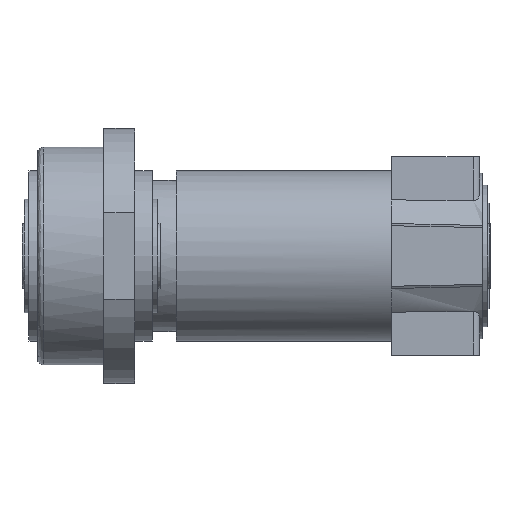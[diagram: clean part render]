
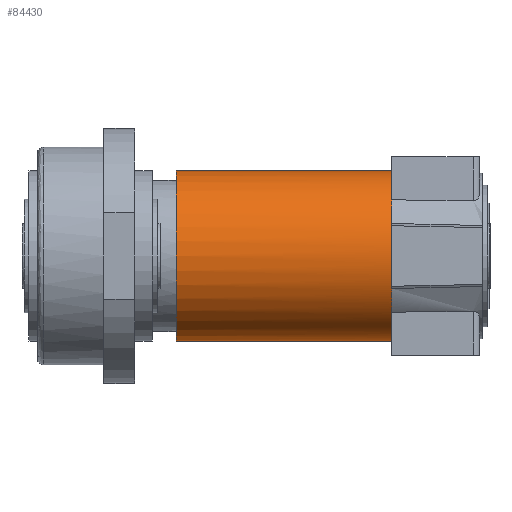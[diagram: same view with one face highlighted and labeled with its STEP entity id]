
A CAD part, front view. The second image highlights one B-rep face of the part: STEP entity #84430.
In plain terms, the highlighted cylindrical face has radius 45 mm (diameter 90 mm), a partial arc.
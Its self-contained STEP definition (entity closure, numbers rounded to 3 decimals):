
#20510=CARTESIAN_POINT('',(-64.,458.874,
-134.584));
#20520=DIRECTION('',(0.,1.,
-0.026));
#20530=DIRECTION('',(1.,0.,0.));
#20540=AXIS2_PLACEMENT_3D('',#20510,#20520,#20530);
#20550=CYLINDRICAL_SURFACE('',#20540,45.);
#20560=CARTESIAN_POINT('',(-109.,458.874,
-134.584));
#20570=DIRECTION('',(0.,1.,
-0.026));
#20580=VECTOR('',#20570,1.);
#20590=LINE('',#20560,#20580);
#20600=CARTESIAN_POINT('',(-109.,458.874,
-134.584));
#20610=VERTEX_POINT('',#20600);
#20620=CARTESIAN_POINT('',(-109.,572.835,
-137.568));
#20630=VERTEX_POINT('',#20620);
#20640=EDGE_CURVE('',#20610,#20630,#20590,.T.);
#20660=CARTESIAN_POINT('',(-64.,572.835,
-137.568));
#20670=DIRECTION('',(0.,1.,
-0.026));
#20680=DIRECTION('',(1.,0.,0.));
#20690=AXIS2_PLACEMENT_3D('',#20660,#20670,#20680);
#20700=CIRCLE('',#20690,45.);
#20710=CARTESIAN_POINT('',(-19.,572.835,
-137.568));
#20720=VERTEX_POINT('',#20710);
#20750=CARTESIAN_POINT('',(-19.,458.874,
-134.584));
#20760=DIRECTION('',(0.,1.,
-0.026));
#20770=VECTOR('',#20760,1.);
#20780=LINE('',#20750,#20770);
#20790=CARTESIAN_POINT('',(-19.,458.874,
-134.584));
#20800=VERTEX_POINT('',#20790);
#20810=EDGE_CURVE('',#20800,#20720,#20780,.T.);
#20830=CARTESIAN_POINT('',(-64.,458.874,
-134.584));
#20840=DIRECTION('',(0.,1.,
-0.026));
#20850=DIRECTION('',(1.,0.,0.));
#20860=AXIS2_PLACEMENT_3D('',#20830,#20840,#20850);
#20870=CIRCLE('',#20860,45.);
#20980=EDGE_CURVE('',#20720,#20630,#20700,.T.);
#25840=EDGE_CURVE('',#20800,#20610,#20870,.T.);
#84370=ORIENTED_EDGE('',*,*,#20980,.F.);
#84380=ORIENTED_EDGE('',*,*,#20640,.T.);
#84390=ORIENTED_EDGE('',*,*,#25840,.T.);
#84400=ORIENTED_EDGE('',*,*,#20810,.F.);
#84410=EDGE_LOOP('',(#84400,#84390,#84380,#84370));
#84420=FACE_OUTER_BOUND('',#84410,.T.);
#84430=ADVANCED_FACE('',(#84420),#20550,.T.);
